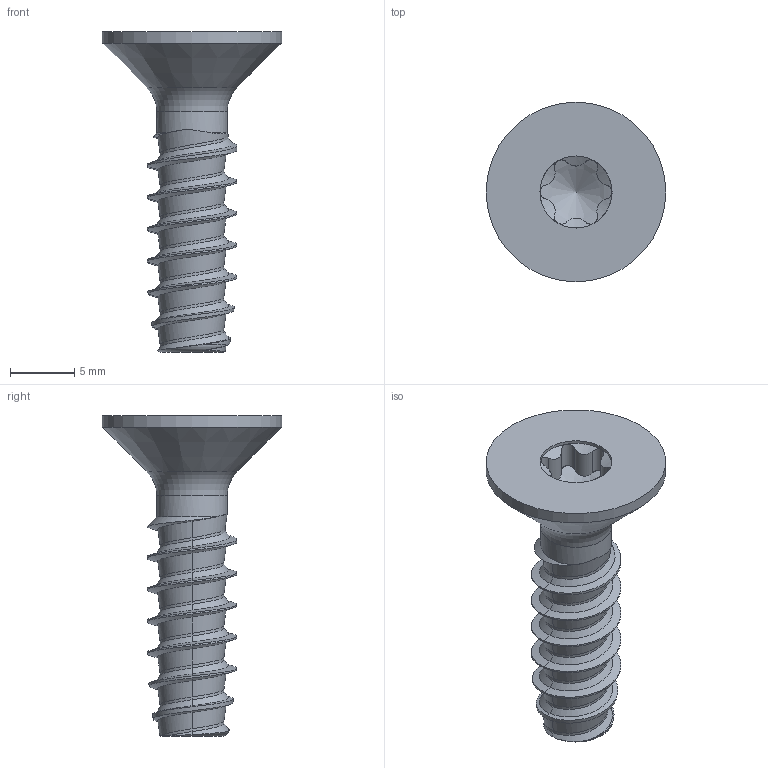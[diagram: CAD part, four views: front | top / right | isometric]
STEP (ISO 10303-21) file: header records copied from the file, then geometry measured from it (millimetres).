
FILE_DESCRIPTION(/* description */ (''),/* implementation_level */ '2;1');
FILE_NAME(/* name */ 'KN6041-STSplus-70x25-T30.step',/* time_stamp */ '2017-10-12T11:06:40+02:00',/* author */ (''),/* organization */ (''),/* preprocessor_version */ 'ST-DEVELOPER v16',/* originating_system */ 'SIEMENS PLM Software NX 10.0',/* authorisation */ '');
FILE_SCHEMA (('AUTOMOTIVE_DESIGN { 1 0 10303 214 3 1 1 1 }'));
Length unit declared in the file: millimetre
Products named in the file (1): KN6041-STSplus-70x25-T30
Bounding box: 14 x 14 x 25 mm (x, y, z)
Volume: 888.7 mm3; surface area: 926.8 mm2
Topology: 1 solids, 1 shells, 64 faces, 157 edges, 95 vertices
Faces by surface type: bspline 39, cylinder 16, cone 5, torus 2, plane 2
Full cylindrical faces by diameter (mm): 5.48 x1, 5.62 x1, 14 x1
Entity records: 4542 total; most frequent: CARTESIAN_POINT 3380, ORIENTED_EDGE 284, EDGE_CURVE 142, DIRECTION 120, VERTEX_POINT 89, B_SPLINE_CURVE_WITH_KNOTS 85, EDGE_LOOP 72, ADVANCED_FACE 64
